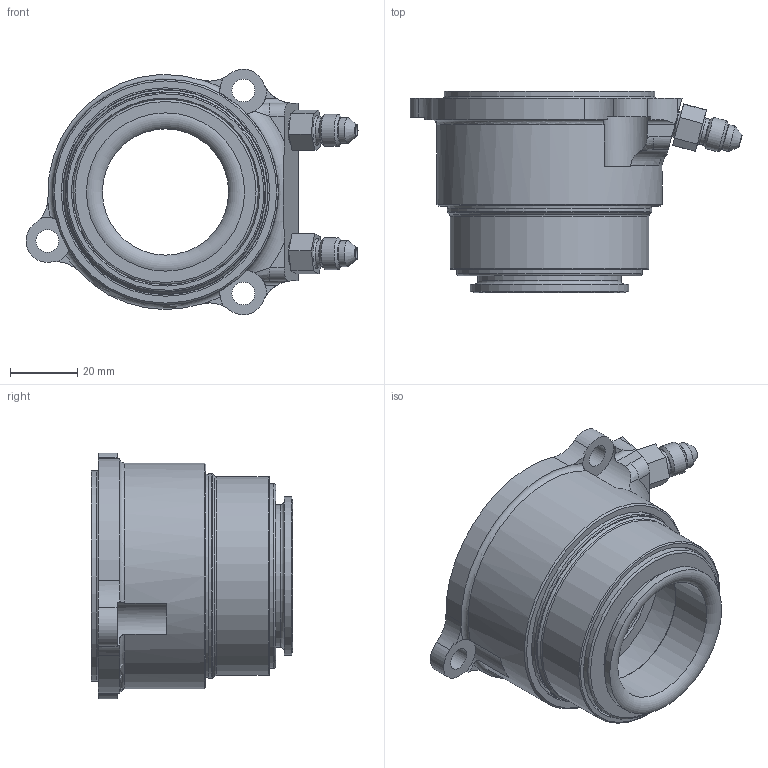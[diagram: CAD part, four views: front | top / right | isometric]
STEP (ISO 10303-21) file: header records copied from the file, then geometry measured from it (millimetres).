
FILE_DESCRIPTION(/* description */ ('Unknown'),/* implementation_level */ '2;1');
FILE_NAME(/* name */ '60-1240 ASSEMBLY',/* time_stamp */ '2018-04-02T13:51:20-07:00',/* author */ ('Unknown'),/* organization */ ('Unknown'),/* preprocessor_version */ 'ST-DEVELOPER v16.7',/* originating_system */ 'DEX',/* authorisation */ $);
FILE_SCHEMA (('AUTOMOTIVE_DESIGN {1 0 10303 214 3 1 1}'));
Length unit declared in the file: millimetre
Products named in the file (1): 60-1240 ASSEMBLY
Bounding box: 98.64 x 59.75 x 72.99 mm (x, y, z)
Volume: 114759.6 mm3; surface area: 34389.1 mm2
Topology: 1 solids, 1 shells, 142 faces, 330 edges, 211 vertices
Faces by surface type: plane 55, cylinder 45, torus 24, cone 16, bspline 2
Full cylindrical faces by diameter (mm): 3.175 x2, 6.756 x3, 7.734 x2, 7.925 x4, 9.525 x2, 37.5 x1, 38.1 x1, 42.5 x1, 47 x1, 47.714 x1, 55 x2, 59.182 x1, 60.96 x1, 61.925 x1, 62.512 x1, 64.77 x1, 64.922 x1, 67.056 x1
Entity records: 4792 total; most frequent: CARTESIAN_POINT 796, DIRECTION 654, ORIENTED_EDGE 500, AXIS2_PLACEMENT_3D 287, EDGE_CURVE 250, EDGE_LOOP 235, FACE_BOUND 235, VERTEX_POINT 195
